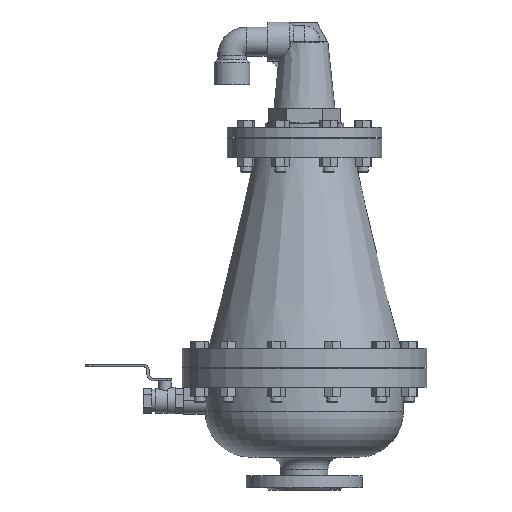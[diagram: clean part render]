
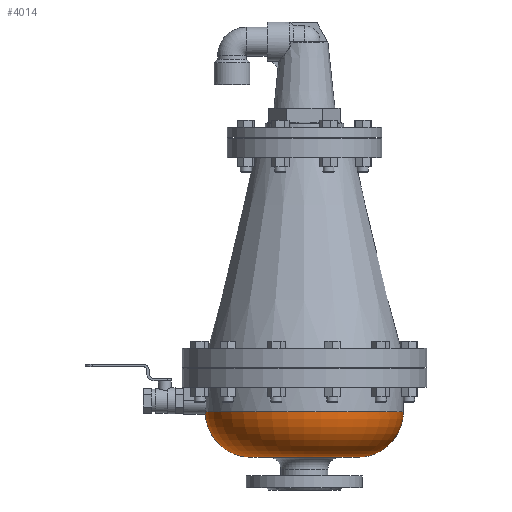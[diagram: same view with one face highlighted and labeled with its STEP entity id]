
A CAD part, left-side view. The second image highlights one B-rep face of the part: STEP entity #4014.
In plain terms, the highlighted toroidal (fillet/blend) face has major radius 76 mm and minor radius 65 mm.
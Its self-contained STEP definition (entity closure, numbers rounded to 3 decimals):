
#4014=ADVANCED_FACE('',(#8588,#8590),#8592,.T.);
#8588=FACE_BOUND('',#8589,.T.);
#8589=EDGE_LOOP('',(#12105,#12106,#12107));
#8590=FACE_OUTER_BOUND('',#8591,.T.);
#8591=EDGE_LOOP('',(#12108));
#8592=TOROIDAL_SURFACE('',#8593,76.,65.);
#8593=AXIS2_PLACEMENT_3D('',#8594,#8595,#8596);
#8594=CARTESIAN_POINT('',(0.,0.,111.59));
#8595=DIRECTION('',(0.,0.,-1.));
#8596=DIRECTION('',(-1.,0.,0.));
#12105=ORIENTED_EDGE('',*,*,#13852,.T.);
#12106=ORIENTED_EDGE('',*,*,#13851,.T.);
#12107=ORIENTED_EDGE('',*,*,#13893,.F.);
#12108=ORIENTED_EDGE('',*,*,#13894,.F.);
#13851=EDGE_CURVE('',#16043,#16041,#16044,.T.);
#13852=EDGE_CURVE('',#16045,#16043,#16046,.T.);
#13893=EDGE_CURVE('',#16045,#16041,#16118,.T.);
#13894=EDGE_CURVE('',#16119,#16119,#16120,.T.);
#16041=VERTEX_POINT('',#21326);
#16043=VERTEX_POINT('',#21375);
#16044=CIRCLE('',#21376,141.);
#16045=VERTEX_POINT('',#21380);
#16046=CIRCLE('',#21381,141.);
#16118=B_SPLINE_CURVE_WITH_KNOTS('',3,
(#21835,#21836,#21837,#21838,#21839,#21840,#21841,#21842,#21843,#21844,#21845,#21846,
#21847,#21848,#21849,#21850,#21851,#21852,#21853,#21854,#21855,#21856,#21857,#21858,
#21859,#21860,#21861,#21862,#21863,#21864,#21865,#21866,#21867,#21868,#21869,#21870,
#21871,#21872,#21873,#21874,#21875,#21876,#21877,#21878,#21879,#21880,#21881,#21882,
#21883,#21884,#21885,#21886,#21887,#21888,#21889,#21890,#21891,#21892,#21893,#21894,
#21895,#21896,#21897,#21898,#21899,#21900,#21901,#21902,#21903,#21904,#21905,#21906,
#21907,#21908,#21909,#21910,#21911,#21912,#21913,#21914,#21915,#21916,#21917,#21918,
#21919,#21920,#21921),
.UNSPECIFIED.,.F.,.F.,
(4,1,1,1,1,1,1,1,1,1,1,1,1,1,1,1,1,1,1,1,1,1,1,1,1,1,1,1,1,1,1,1,1,1,1,1,1,1,1,1,
1,1,1,1,1,1,1,1,1,1,1,1,1,1,1,1,1,1,1,1,1,1,1,1,1,1,1,1,1,1,1,1,1,1,1,1,1,1,1,1,
1,1,1,1,4),
(0.,0.004,0.009,0.013,0.018,
0.022,0.029,0.036,0.043,0.049,
0.055,0.062,0.068,0.076,0.084,
0.093,0.102,0.111,0.121,0.132,
0.143,0.154,0.166,0.179,0.192,
0.204,0.218,0.231,0.245,0.259,
0.273,0.287,0.302,0.316,0.33,
0.35,0.369,0.388,0.402,0.415,
0.429,0.442,0.455,0.468,0.481,
0.493,0.5,0.504,0.516,0.527,
0.538,0.553,0.568,0.582,0.594,
0.605,0.616,0.628,0.64,0.652,
0.664,0.677,0.69,0.702,0.715,
0.729,0.742,0.755,0.769,0.783,
0.801,0.825,0.848,0.866,0.879,
0.893,0.905,0.918,0.931,0.943,
0.955,0.966,0.978,0.989,1.),
.UNSPECIFIED.);
#16119=VERTEX_POINT('',#21922);
#16120=CIRCLE('',#21923,76.);
#21326=CARTESIAN_POINT('',(-11.115,140.561,111.59));
#21375=CARTESIAN_POINT('',(-141.,0.,111.59));
#21376=AXIS2_PLACEMENT_3D('',#21377,#21378,#21379);
#21377=CARTESIAN_POINT('',(0.,0.,111.59));
#21378=DIRECTION('',(0.,0.,-1.));
#21379=DIRECTION('',(-1.,0.,0.));
#21380=CARTESIAN_POINT('',(11.115,140.561,111.59));
#21381=AXIS2_PLACEMENT_3D('',#21382,#21383,#21384);
#21382=CARTESIAN_POINT('',(0.,0.,111.59));
#21383=DIRECTION('',(0.,0.,-1.));
#21384=DIRECTION('',(0.079,0.997,0.));
#21835=CARTESIAN_POINT('',(11.115,140.561,111.59));
#21836=CARTESIAN_POINT('',(11.087,140.563,111.57));
#21837=CARTESIAN_POINT('',(11.031,140.568,111.53));
#21838=CARTESIAN_POINT('',(10.947,140.574,111.47));
#21839=CARTESIAN_POINT('',(10.86,140.581,111.409));
#21840=CARTESIAN_POINT('',(10.77,140.588,111.347));
#21841=CARTESIAN_POINT('',(10.666,140.595,111.276));
#21842=CARTESIAN_POINT('',(10.547,140.604,111.196));
#21843=CARTESIAN_POINT('',(10.411,140.613,111.106));
#21844=CARTESIAN_POINT('',(10.28,140.622,111.021));
#21845=CARTESIAN_POINT('',(10.154,140.631,110.941));
#21846=CARTESIAN_POINT('',(10.03,140.639,110.863));
#21847=CARTESIAN_POINT('',(9.897,140.647,110.781));
#21848=CARTESIAN_POINT('',(9.754,140.656,110.694));
#21849=CARTESIAN_POINT('',(9.6,140.665,110.603));
#21850=CARTESIAN_POINT('',(9.433,140.675,110.507));
#21851=CARTESIAN_POINT('',(9.257,140.685,110.407));
#21852=CARTESIAN_POINT('',(9.07,140.695,110.304));
#21853=CARTESIAN_POINT('',(8.873,140.706,110.198));
#21854=CARTESIAN_POINT('',(8.661,140.716,110.088));
#21855=CARTESIAN_POINT('',(8.438,140.727,109.976));
#21856=CARTESIAN_POINT('',(8.201,140.738,109.86));
#21857=CARTESIAN_POINT('',(7.953,140.749,109.744));
#21858=CARTESIAN_POINT('',(7.692,140.76,109.626));
#21859=CARTESIAN_POINT('',(7.423,140.771,109.509));
#21860=CARTESIAN_POINT('',(7.145,140.782,109.394));
#21861=CARTESIAN_POINT('',(6.861,140.792,109.281));
#21862=CARTESIAN_POINT('',(6.568,140.802,109.17));
#21863=CARTESIAN_POINT('',(6.268,140.812,109.063));
#21864=CARTESIAN_POINT('',(5.959,140.821,108.958));
#21865=CARTESIAN_POINT('',(5.644,140.83,108.857));
#21866=CARTESIAN_POINT('',(5.322,140.838,108.76));
#21867=CARTESIAN_POINT('',(4.996,140.846,108.668));
#21868=CARTESIAN_POINT('',(4.666,140.853,108.581));
#21869=CARTESIAN_POINT('',(4.334,140.86,108.5));
#21870=CARTESIAN_POINT('',(3.962,140.867,108.416));
#21871=CARTESIAN_POINT('',(3.553,140.874,108.333));
#21872=CARTESIAN_POINT('',(3.107,140.88,108.254));
#21873=CARTESIAN_POINT('',(2.7,140.885,108.191));
#21874=CARTESIAN_POINT('',(2.333,140.889,108.143));
#21875=CARTESIAN_POINT('',(2.007,140.892,108.105));
#21876=CARTESIAN_POINT('',(1.685,140.895,108.074));
#21877=CARTESIAN_POINT('',(1.369,140.897,108.049));
#21878=CARTESIAN_POINT('',(1.06,140.898,108.029));
#21879=CARTESIAN_POINT('',(0.759,140.9,108.014));
#21880=CARTESIAN_POINT('',(0.464,140.9,108.005));
#21881=CARTESIAN_POINT('',(0.213,140.901,108.001));
#21882=CARTESIAN_POINT('',(0.025,140.901,108.));
#21883=CARTESIAN_POINT('',(-0.159,140.901,108.));
#21884=CARTESIAN_POINT('',(-0.374,140.901,108.003));
#21885=CARTESIAN_POINT('',(-0.644,140.9,108.01));
#21886=CARTESIAN_POINT('',(-0.938,140.899,108.022));
#21887=CARTESIAN_POINT('',(-1.259,140.898,108.041));
#21888=CARTESIAN_POINT('',(-1.608,140.895,108.067));
#21889=CARTESIAN_POINT('',(-1.927,140.893,108.097));
#21890=CARTESIAN_POINT('',(-2.219,140.89,108.129));
#21891=CARTESIAN_POINT('',(-2.484,140.888,108.162));
#21892=CARTESIAN_POINT('',(-2.753,140.885,108.2));
#21893=CARTESIAN_POINT('',(-3.027,140.881,108.242));
#21894=CARTESIAN_POINT('',(-3.306,140.877,108.289));
#21895=CARTESIAN_POINT('',(-3.59,140.873,108.341));
#21896=CARTESIAN_POINT('',(-3.877,140.868,108.399));
#21897=CARTESIAN_POINT('',(-4.169,140.863,108.462));
#21898=CARTESIAN_POINT('',(-4.463,140.857,108.531));
#21899=CARTESIAN_POINT('',(-4.76,140.851,108.605));
#21900=CARTESIAN_POINT('',(-5.057,140.844,108.685));
#21901=CARTESIAN_POINT('',(-5.358,140.837,108.77));
#21902=CARTESIAN_POINT('',(-5.66,140.829,108.862));
#21903=CARTESIAN_POINT('',(-5.966,140.821,108.96));
#21904=CARTESIAN_POINT('',(-6.272,140.811,109.064));
#21905=CARTESIAN_POINT('',(-6.615,140.8,109.187));
#21906=CARTESIAN_POINT('',(-7.026,140.786,109.345));
#21907=CARTESIAN_POINT('',(-7.501,140.768,109.541));
#21908=CARTESIAN_POINT('',(-7.968,140.749,109.749));
#21909=CARTESIAN_POINT('',(-8.359,140.731,109.936));
#21910=CARTESIAN_POINT('',(-8.676,140.716,110.095));
#21911=CARTESIAN_POINT('',(-8.952,140.702,110.24));
#21912=CARTESIAN_POINT('',(-9.222,140.687,110.387));
#21913=CARTESIAN_POINT('',(-9.485,140.672,110.536));
#21914=CARTESIAN_POINT('',(-9.74,140.657,110.686));
#21915=CARTESIAN_POINT('',(-9.987,140.642,110.836));
#21916=CARTESIAN_POINT('',(-10.226,140.626,110.986));
#21917=CARTESIAN_POINT('',(-10.457,140.61,111.136));
#21918=CARTESIAN_POINT('',(-10.682,140.594,111.286));
#21919=CARTESIAN_POINT('',(-10.901,140.578,111.437));
#21920=CARTESIAN_POINT('',(-11.044,140.567,111.539));
#21921=CARTESIAN_POINT('',(-11.115,140.561,111.59));
#21922=CARTESIAN_POINT('',(-76.,0.,46.59));
#21923=AXIS2_PLACEMENT_3D('',#21924,#21925,#21926);
#21924=CARTESIAN_POINT('',(0.,0.,46.59));
#21925=DIRECTION('',(0.,0.,-1.));
#21926=DIRECTION('',(-1.,0.,0.));
